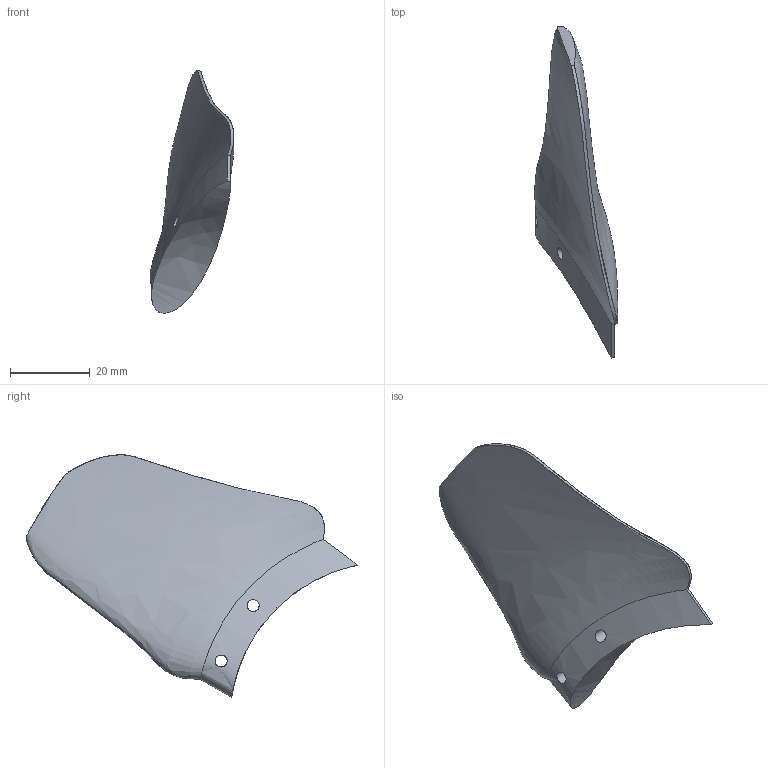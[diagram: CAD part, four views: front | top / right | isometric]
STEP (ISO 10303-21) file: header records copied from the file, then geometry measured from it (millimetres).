
FILE_DESCRIPTION(('Open CASCADE Model'),'2;1');
FILE_NAME('Open CASCADE Shape Model','2026-10-31T23:31:01',('Author'),( 'Open CASCADE'),'Open CASCADE STEP processor 7.9','Open CASCADE 7.9' ,'Unknown');
FILE_SCHEMA(('AUTOMOTIVE_DESIGN { 1 0 10303 214 1 1 1 1 }'));
Length unit declared in the file: millimetre
Products named in the file (1): Open CASCADE STEP translator 7.9 23
Bounding box: 20.88 x 83.01 x 60.63 mm (x, y, z)
Volume: 17380.8 mm3; surface area: 6756.8 mm2
Topology: 1 solids, 1 shells, 10 faces, 21 edges, 13 vertices
Faces by surface type: bspline 8, cylinder 2
Full cylindrical faces by diameter (mm): 3 x2
Entity records: 6895 total; most frequent: CARTESIAN_POINT 6526, ORIENTED_EDGE 42, PCURVE 42, DEFINITIONAL_REPRESENTATION 42, DIRECTION 36, B_SPLINE_CURVE_WITH_KNOTS 30, LINE 30, VECTOR 30
